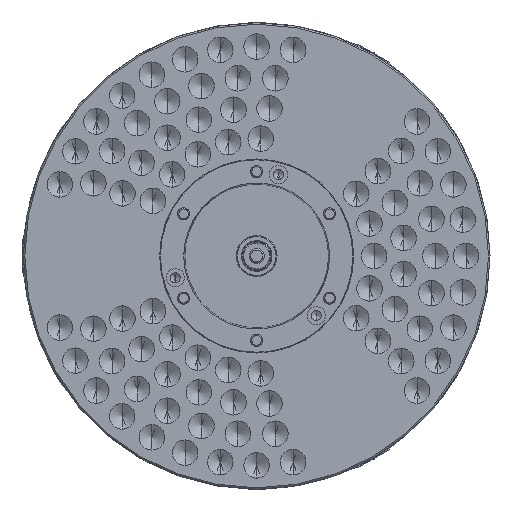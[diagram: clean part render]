
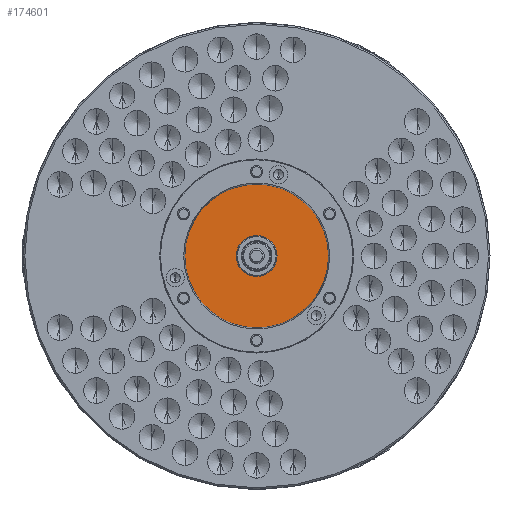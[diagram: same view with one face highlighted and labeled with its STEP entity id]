
A CAD part, left-side view. The second image highlights one B-rep face of the part: STEP entity #174601.
In plain terms, the highlighted planar face has unit normal (-1, 0, 0) as drawn and (0, 0, -1) by its records, which use the part's own axes.
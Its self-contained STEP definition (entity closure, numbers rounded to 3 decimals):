
#2710 = ORIENTED_EDGE ( 'NONE', *, *, #125278, .F. ) ;
#7074 = CARTESIAN_POINT ( 'NONE',  ( 0., 0., -145. ) ) ;
#7645 = DIRECTION ( 'NONE',  ( 0., 0., 1. ) ) ;
#9128 = EDGE_LOOP ( 'NONE', ( #56802, #52088 ) ) ;
#10356 = AXIS2_PLACEMENT_3D ( 'NONE', #101289, #18108, #115131 ) ;
#12672 = FACE_OUTER_BOUND ( 'NONE', #17746, .T. ) ;
#13662 = CIRCLE ( 'NONE', #117370, 40. ) ;
#17746 = EDGE_LOOP ( 'NONE', ( #2710, #35816 ) ) ;
#18108 = DIRECTION ( 'NONE',  ( 0., 0., 1. ) ) ;
#21022 = DIRECTION ( 'NONE',  ( 1., 0., 0. ) ) ;
#32824 = VERTEX_POINT ( 'NONE', #133618 ) ;
#35816 = ORIENTED_EDGE ( 'NONE', *, *, #88689, .F. ) ;
#45948 = EDGE_CURVE ( 'NONE', #103435, #83399, #13662, .T. ) ;
#52088 = ORIENTED_EDGE ( 'NONE', *, *, #45948, .T. ) ;
#56802 = ORIENTED_EDGE ( 'NONE', *, *, #67512, .T. ) ;
#57265 = CARTESIAN_POINT ( 'NONE',  ( 0., -140.7, -145. ) ) ;
#67512 = EDGE_CURVE ( 'NONE', #83399, #103435, #119484, .T. ) ;
#70603 = DIRECTION ( 'NONE',  ( 0., 0., 1. ) ) ;
#71180 = PLANE ( 'NONE',  #156420 ) ;
#76664 = CARTESIAN_POINT ( 'NONE',  ( 0., 0., -145. ) ) ;
#77816 = FACE_BOUND ( 'NONE', #9128, .T. ) ;
#83399 = VERTEX_POINT ( 'NONE', #85624 ) ;
#85161 = DIRECTION ( 'NONE',  ( 1., 0., 0. ) ) ;
#85624 = CARTESIAN_POINT ( 'NONE',  ( 40., 0., -145. ) ) ;
#87482 = VERTEX_POINT ( 'NONE', #154124 ) ;
#88395 = CARTESIAN_POINT ( 'NONE',  ( -40., 0., -145. ) ) ;
#88689 = EDGE_CURVE ( 'NONE', #87482, #32824, #164706, .T. ) ;
#90623 = DIRECTION ( 'NONE',  ( 1., 0., 0. ) ) ;
#90782 = CARTESIAN_POINT ( 'NONE',  ( 0., 0., -145. ) ) ;
#101289 = CARTESIAN_POINT ( 'NONE',  ( 0., 0., -145. ) ) ;
#103435 = VERTEX_POINT ( 'NONE', #88395 ) ;
#104180 = DIRECTION ( 'NONE',  ( 0., 0., 1. ) ) ;
#104762 = DIRECTION ( 'NONE',  ( 1., 0., 0. ) ) ;
#115131 = DIRECTION ( 'NONE',  ( 1., 0., 0. ) ) ;
#115366 = AXIS2_PLACEMENT_3D ( 'NONE', #76664, #173377, #90623 ) ;
#117370 = AXIS2_PLACEMENT_3D ( 'NONE', #90782, #7645, #104762 ) ;
#119484 = CIRCLE ( 'NONE', #133312, 40. ) ;
#125278 = EDGE_CURVE ( 'NONE', #32824, #87482, #170388, .T. ) ;
#133312 = AXIS2_PLACEMENT_3D ( 'NONE', #7074, #104180, #21022 ) ;
#133618 = CARTESIAN_POINT ( 'NONE',  ( 140.7, 0., -145. ) ) ;
#154124 = CARTESIAN_POINT ( 'NONE',  ( -140.7, 0., -145. ) ) ;
#156420 = AXIS2_PLACEMENT_3D ( 'NONE', #57265, #70603, #85161 ) ;
#164706 = CIRCLE ( 'NONE', #10356, 140.7 ) ;
#170388 = CIRCLE ( 'NONE', #115366, 140.7 ) ;
#173377 = DIRECTION ( 'NONE',  ( 0., 0., 1. ) ) ;
#174601 = ADVANCED_FACE ( 'NONE', ( #12672, #77816 ), #71180, .F. ) ;
